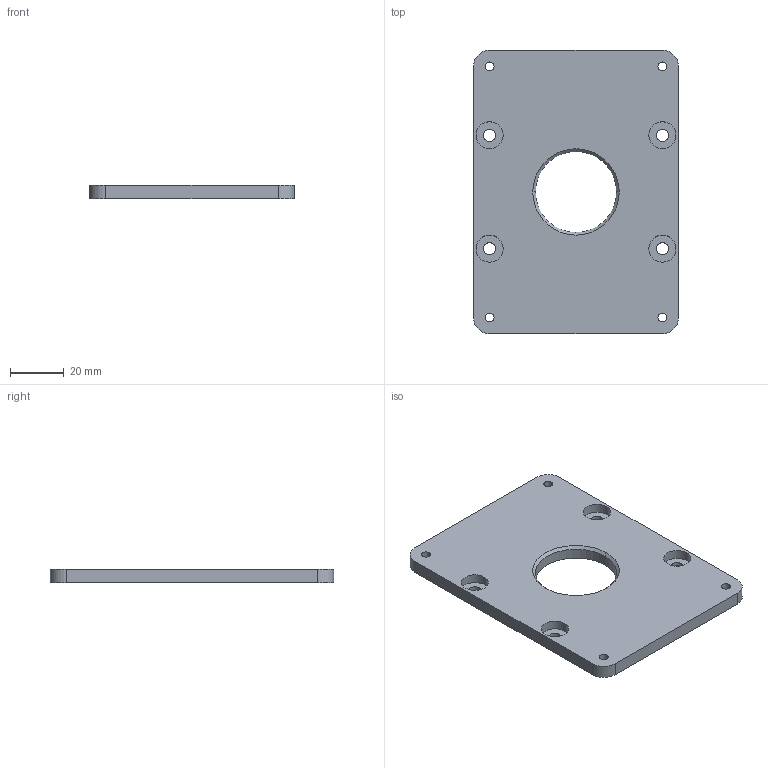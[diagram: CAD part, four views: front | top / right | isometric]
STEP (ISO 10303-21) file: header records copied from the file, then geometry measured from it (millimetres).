
FILE_DESCRIPTION (( 'STEP AP203' ), '1' );
FILE_NAME ('7IMS10-7IFW6蟀諉啣.STEP', '2025-01-13T01:46:21', ( '' ), ( '' ), 'SwSTEP 2.0', 'SolidWorks 2018', '' );
FILE_SCHEMA (( 'CONFIG_CONTROL_DESIGN' ));
Length unit declared in the file: millimetre
Products named in the file (1): 7IMS10-7IFW6蟀諉啣
Bounding box: 76 x 105 x 5 mm (x, y, z)
Volume: 34797 mm3; surface area: 17196.6 mm2
Topology: 1 solids, 1 shells, 42 faces, 106 edges, 70 vertices
Faces by surface type: cylinder 30, plane 10, cone 2
Entity records: 1409 total; most frequent: DIRECTION 254, CARTESIAN_POINT 219, ORIENTED_EDGE 212, EDGE_CURVE 106, AXIS2_PLACEMENT_3D 105, VERTEX_POINT 70, EDGE_LOOP 64, CIRCLE 62
